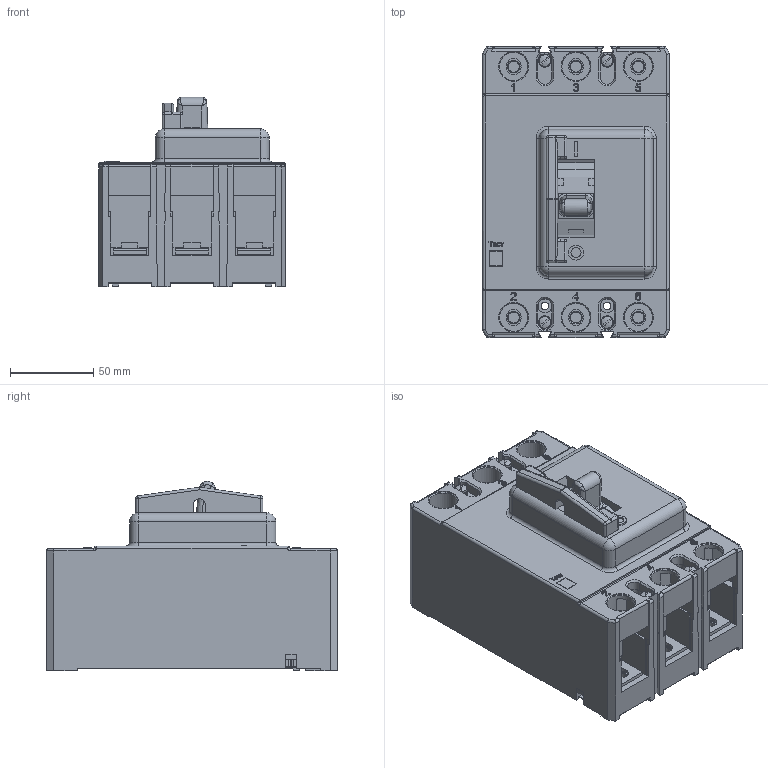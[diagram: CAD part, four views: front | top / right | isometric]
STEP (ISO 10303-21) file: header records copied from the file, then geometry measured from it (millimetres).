
FILE_DESCRIPTION (( 'STEP AP203' ), '1' );
FILE_NAME ('ÂÀ04-36 (ñ ÇÓ).STEP', '2020-12-10T06:39:15', ( '' ), ( '' ), 'SwSTEP 2.0', 'SolidWorks 2018', '' );
FILE_SCHEMA (( 'CONFIG_CONTROL_DESIGN' ));
Length unit declared in the file: millimetre
Products named in the file (1): ÂÀ04-36 (ñ ÇÓ)
Bounding box: 112.5 x 175 x 113.9 mm (x, y, z)
Volume: 1363560.2 mm3; surface area: 141341.5 mm2
Topology: 1 solids, 8 shells, 1235 faces, 3297 edges, 2127 vertices
Faces by surface type: plane 827, cylinder 240, bspline 89, sphere 42, cone 27, torus 10
Full cylindrical faces by diameter (mm): 4 x10, 4.5 x4, 6.09 x1, 6.18 x1, 6.6 x4, 6.65 x6, 7 x4, 7.2 x4, 8 x4, 8.2 x4, 8.31 x2, 9 x1, 17 x6, 18 x6
Entity records: 41895 total; most frequent: CARTESIAN_POINT 11961, ORIENTED_EDGE 6330, DIRECTION 5829, EDGE_CURVE 3165, VECTOR 2289, LINE 2289, VERTEX_POINT 2085, AXIS2_PLACEMENT_3D 1770
